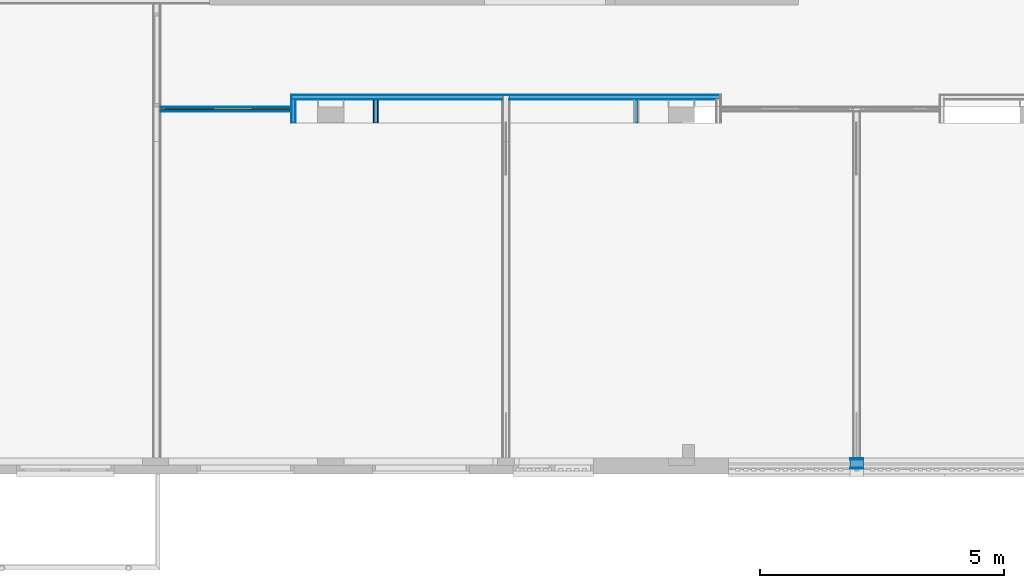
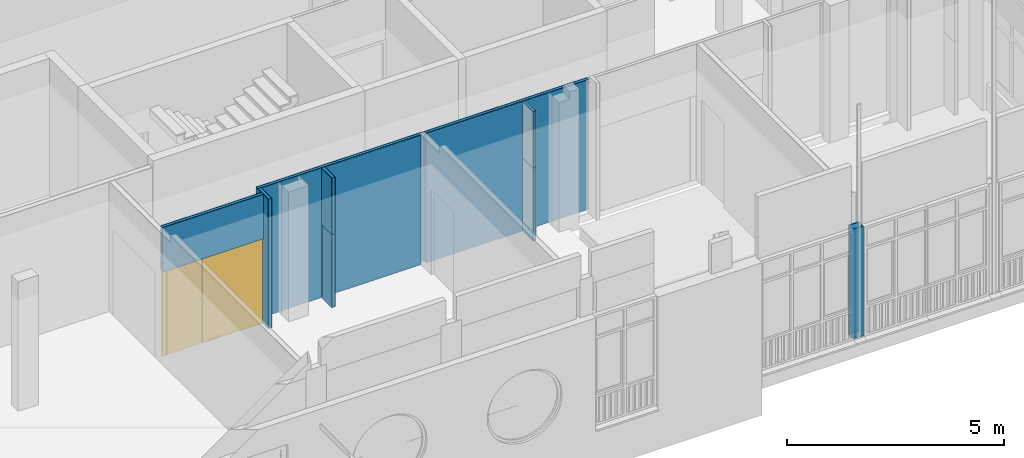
# One storey, part 100 of 135: 21 building element parts, 1 door, 1 opening, 7 elements without a shape of their own.
"""IFC2X3 building model written with IfcOpenShell, lengths in millimetres."""

from ifc_helpers import new_model, entity, si_unit, converted_unit, derived_unit, money_unit, direction, frame, origin_with_axes, place, context, subcontext, project, spatial, open_shell, faceted_brep, surface_model, material, type_object, element, fill, aggregate, save


model = new_model("IFC2X3")

# Units and contexts
model_context = context("Model", 3, precision=0.01, world=origin_with_axes(), true_north=direction((0.0, 1.0)))
body_context = subcontext(model_context, "Body", "Model", "MODEL_VIEW")
ifc_project = project(units=[si_unit("LENGTHUNIT", "METRE", prefix="MILLI"), si_unit("AREAUNIT", "SQUARE_METRE"), si_unit("VOLUMEUNIT", "CUBIC_METRE"), converted_unit("PLANEANGLEUNIT", "DEGREE", entity("IfcPlaneAngleMeasure", 0.0174532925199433), si_unit("PLANEANGLEUNIT", "RADIAN"), dimensions=[0, 0, 0, 0, 0, 0, 0]), money_unit("EUR"), converted_unit("TIMEUNIT", "Year", entity("IfcTimeMeasure", 31557600.0), si_unit("TIMEUNIT", "SECOND"), dimensions=[0, 0, 1, 0, 0, 0, 0]), si_unit("MASSUNIT", "GRAM", prefix="KILO"), si_unit("THERMODYNAMICTEMPERATUREUNIT", "DEGREE_CELSIUS"), si_unit("LUMINOUSINTENSITYUNIT", "LUMEN"), si_unit("ENERGYUNIT", "JOULE", prefix="MEGA"), derived_unit("THERMALCONDUCTANCEUNIT", [(si_unit("POWERUNIT", "WATT"), 1), (si_unit("LENGTHUNIT", "METRE"), -1), (si_unit("THERMODYNAMICTEMPERATUREUNIT", "KELVIN"), -1)]), derived_unit("SPECIFICHEATCAPACITYUNIT", [(si_unit("ENERGYUNIT", "JOULE"), 1), (si_unit("MASSUNIT", "GRAM", prefix="KILO"), -1), (si_unit("THERMODYNAMICTEMPERATUREUNIT", "KELVIN"), -1)]), derived_unit("MASSDENSITYUNIT", [(si_unit("MASSUNIT", "GRAM", prefix="KILO"), 1), (si_unit("VOLUMEUNIT", "CUBIC_METRE"), -1)])], contexts=[model_context])

# Site, building, storey
site_placement = place(None, origin_with_axes())
site = spatial("IfcSite", under=ifc_project, at=site_placement, Name="Site", CompositionType="ELEMENT")
building_placement = place(site_placement, origin_with_axes())
building = spatial("IfcBuilding", under=site, at=building_placement, Name="Naam gebouw", CompositionType="ELEMENT")
storey_placement = place(building_placement, origin_with_axes())
storey = spatial("IfcBuildingStorey", under=building, at=storey_placement, Name="Begane grond N", CompositionType="ELEMENT", Elevation=0.0)

# Door
door_style = type_object("IfcDoorStyle", Name="D1 zl2 27", ConstructionType="NOTDEFINED", OperationType="USERDEFINED", ParameterTakesPrecedence=False, Sizeable=False)
wall_2_placement = place(storey_placement, frame((10905.50051848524, 10605.91242510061, 0.0), z_axis=(0.0, 0.0, 1.0), x_axis=(1.0, 0.0, 0.0)))
opening_placement = place(wall_2_placement, frame((1339.74974075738, 0.0, 0.0), z_axis=(0.0, 0.0, 1.0), x_axis=(1.0, 0.0, 0.0)))
door_placement = place(opening_placement, frame((1339.749740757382, 0.0, 0.0), z_axis=(0.0, 0.0, 1.0), x_axis=(-1.0, 0.0, 0.0)))
door = element("IfcDoor", 1, at=door_placement, inside=storey, type_object=door_style, Name="_Merk-x", ObjectType="DOOR", OverallHeight=2400.0, OverallWidth=2679.5, context=body_context, shape_type="SurfaceModel", body=[
    faceted_brep([(0.0, 10.00000000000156, 0.0), (30.00000000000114, 10.00000000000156, 0.0), (30.00000000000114, -9.99999999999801, 0.0), (0.0, -9.99999999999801, 0.0), (0.0, 10.00000000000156, 2370.0), (30.00000000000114, 10.00000000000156, 2370.0), (30.00000000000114, 10.00000000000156, 30.0), (30.00000000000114, -9.99999999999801, 30.0), (30.00000000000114, -9.99999999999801, 2370.0), (0.0, -9.99999999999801, 2370.0)], [[[0, 1, 2, 3]], [[0, 4, 5, 6, 1]], [[1, 6, 7, 2]], [[3, 2, 7, 8, 9]], [[4, 0, 3, 9]], [[5, 4, 9, 8]], [[6, 5, 8, 7]]]),
    faceted_brep([(1619.499481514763, -8.999999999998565, 0.0), (1619.499481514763, -8.999999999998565, 2370.0), (1619.499481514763, -9.99999999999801, 2370.0), (1619.499481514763, -9.99999999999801, 0.0), (1602.499481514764, -8.999999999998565, 2370.0), (1602.499481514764, -8.999999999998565, 0.0), (1602.499481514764, 10.00000000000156, 2370.0), (1589.499481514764, 10.00000000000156, 2370.0), (1589.499481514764, -9.99999999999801, 2370.0), (1589.499481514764, -9.99999999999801, 0.0), (1589.499481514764, -9.99999999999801, 30.00000000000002), (1589.499481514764, 10.00000000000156, 0.0), (1602.499481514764, 10.00000000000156, 0.0), (1589.499481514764, 10.00000000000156, 30.00000000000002)], [[[0, 1, 2, 3]], [[4, 1, 0, 5]], [[4, 6, 7, 8, 2, 1]], [[9, 3, 2, 8, 10]], [[5, 0, 3, 9, 11, 12]], [[6, 4, 5, 12]], [[6, 12, 11, 13, 7]], [[13, 10, 8, 7]], [[11, 9, 10, 13]]]),
    faceted_brep([(30.00000000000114, 10.00000000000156, 30.0), (30.00000000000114, 10.00000000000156, 0.0), (30.00000000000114, -9.99999999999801, 0.0), (30.00000000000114, -9.99999999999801, 30.0), (1589.499481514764, 10.00000000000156, 30.0), (1589.499481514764, 10.00000000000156, 0.0), (1589.499481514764, -9.99999999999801, 0.0), (1589.499481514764, -9.99999999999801, 30.0)], [[[0, 1, 2, 3]], [[0, 4, 5, 1]], [[1, 5, 6, 2]], [[3, 2, 6, 7]], [[4, 0, 3, 7]], [[5, 4, 7, 6]]]),
    faceted_brep([(2679.499481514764, 10.00000000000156, 0.0), (2679.499481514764, 10.00000000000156, 2370.0), (2679.499481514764, -9.99999999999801, 2370.0), (2679.499481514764, -9.99999999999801, 0.0), (2649.499481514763, 10.00000000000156, 0.0), (2649.499481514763, 10.00000000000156, 30.0), (2649.499481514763, 10.00000000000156, 2370.0), (2649.499481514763, -9.99999999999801, 2370.0), (2649.499481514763, -9.99999999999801, 30.0), (2649.499481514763, -9.99999999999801, 0.0)], [[[0, 1, 2, 3]], [[0, 4, 5, 6, 1]], [[1, 6, 7, 2]], [[3, 2, 7, 8, 9]], [[4, 0, 3, 9]], [[5, 4, 9, 8]], [[6, 5, 8, 7]]]),
    faceted_brep([(2536.499481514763, -8.999999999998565, 2370.0), (2519.499481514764, -8.999999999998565, 2370.0), (2519.499481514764, -9.99999999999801, 2370.0), (2549.499481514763, -9.99999999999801, 2370.0), (2549.499481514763, 10.00000000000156, 2370.0), (2536.499481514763, 10.00000000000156, 2370.0), (2536.499481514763, -8.999999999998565, 0.0), (2519.499481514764, -8.999999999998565, 0.0), (2519.499481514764, -9.99999999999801, 0.0), (2549.499481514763, -9.99999999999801, 0.0), (2549.499481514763, -9.99999999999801, 30.00000000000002), (2549.499481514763, 10.00000000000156, 30.00000000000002), (2536.499481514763, 10.00000000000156, 0.0), (2549.499481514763, 10.00000000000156, 0.0)], [[[0, 1, 2, 3, 4, 5]], [[1, 0, 6, 7]], [[1, 7, 8, 2]], [[8, 9, 10, 3, 2]], [[4, 3, 10, 11]], [[12, 5, 4, 11, 13]], [[0, 5, 12, 6]], [[6, 12, 13, 9, 8, 7]], [[11, 10, 9, 13]]]),
    faceted_brep([(2549.499481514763, 10.00000000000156, 30.0), (2549.499481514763, 10.00000000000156, 0.0), (2549.499481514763, -9.99999999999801, 0.0), (2549.499481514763, -9.99999999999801, 30.0), (2649.499481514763, 10.00000000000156, 30.0), (2649.499481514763, 10.00000000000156, 0.0), (2649.499481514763, -9.99999999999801, 0.0), (2649.499481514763, -9.99999999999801, 30.0)], [[[0, 1, 2, 3]], [[0, 4, 5, 1]], [[1, 5, 6, 2]], [[3, 2, 6, 7]], [[4, 0, 3, 7]], [[5, 4, 7, 6]]]),
    faceted_brep([(1602.499481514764, 10.00000000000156, 2387.0), (1602.499481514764, 10.00000000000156, 2370.0), (1589.499481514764, 10.00000000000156, 2370.0), (30.00000000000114, 10.00000000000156, 2370.0), (0.0, 10.00000000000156, 2370.0), (0.0, 10.00000000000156, 2400.0), (2679.499481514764, 10.00000000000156, 2400.0), (2679.499481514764, 10.00000000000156, 2370.0), (2649.499481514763, 10.00000000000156, 2370.0), (2549.499481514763, 10.00000000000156, 2370.0), (2536.499481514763, 10.00000000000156, 2370.0), (2536.499481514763, 10.00000000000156, 2387.0), (1602.499481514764, -8.999999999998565, 2387.0), (1602.499481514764, -8.999999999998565, 2370.0), (2519.499481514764, -8.999999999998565, 2370.0), (2519.499481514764, -9.99999999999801, 2370.0), (1619.499481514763, -9.99999999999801, 2370.0), (1589.499481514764, -9.99999999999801, 2370.0), (30.00000000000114, -9.99999999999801, 2370.0), (0.0, -9.99999999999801, 2370.0), (0.0, -9.99999999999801, 2400.0), (2679.499481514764, -9.99999999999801, 2400.0), (2679.499481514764, -9.99999999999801, 2370.0), (2649.499481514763, -9.99999999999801, 2370.0), (2536.499481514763, -8.999999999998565, 2370.0), (2549.499481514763, -9.99999999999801, 2370.0), (2536.499481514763, -8.999999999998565, 2387.0)], [[[0, 1, 2, 3, 4, 5, 6, 7, 8, 9, 10, 11]], [[1, 0, 12, 13]], [[13, 14, 15, 16, 17, 2, 1]], [[2, 17, 18, 3]], [[3, 18, 19, 4]], [[4, 19, 20, 5]], [[5, 20, 21, 6]], [[6, 21, 22, 7]], [[7, 22, 23, 8]], [[24, 10, 9, 8, 23, 25, 15, 14]], [[11, 10, 24, 26]], [[0, 11, 26, 12]], [[24, 14, 13, 12, 26]], [[23, 22, 21, 20, 19, 18, 17, 16, 15, 25]]]),
    faceted_brep([(2536.499481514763, 1.000000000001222, 0.0), (2536.499481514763, -8.999999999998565, 0.0), (1602.499481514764, -8.999999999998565, 0.0), (1602.499481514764, 1.000000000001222, 0.0), (2536.499481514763, 1.000000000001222, 2387.0), (2536.499481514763, -8.999999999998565, 2387.0), (1602.499481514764, -8.999999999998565, 2387.0), (1602.499481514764, 1.000000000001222, 2387.0)], [[[0, 1, 2, 3]], [[4, 5, 1, 0]], [[1, 5, 6, 2]], [[3, 2, 6, 7]], [[0, 3, 7, 4]], [[7, 6, 5, 4]]]),
    surface_model("IfcShellBasedSurfaceModel", [(30.00000000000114, 9.000000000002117, 30.0), (30.00000000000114, 9.000000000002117, 2370.0), (1589.499481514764, 9.000000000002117, 2370.0), (1589.499481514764, 9.000000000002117, 30.0)], [open_shell([[[0, 1, 2, 3]]])]),
    surface_model("IfcShellBasedSurfaceModel", [(30.00000000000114, 1.000000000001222, 30.0), (1589.499481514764, 1.000000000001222, 30.0), (1589.499481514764, 1.000000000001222, 2370.0), (30.00000000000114, 1.000000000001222, 2370.0)], [open_shell([[[0, 1, 2, 3]]])]),
    surface_model("IfcShellBasedSurfaceModel", [(2549.499481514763, 9.000000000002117, 30.0), (2549.499481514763, 9.000000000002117, 2370.0), (2649.499481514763, 9.000000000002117, 2370.0), (2649.499481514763, 9.000000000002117, 30.0)], [open_shell([[[0, 1, 2, 3]]])]),
    surface_model("IfcShellBasedSurfaceModel", [(2549.499481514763, 1.000000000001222, 30.0), (2649.499481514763, 1.000000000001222, 30.0), (2649.499481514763, 1.000000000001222, 2370.0), (2549.499481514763, 1.000000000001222, 2370.0)], [open_shell([[[0, 1, 2, 3]]])]),
])

# Wall, building element parts
wall_type_1 = type_object("IfcWallType", Name="Metalstud iso 100 100", PredefinedType="NOTDEFINED")
wall_1_placement = place(storey_placement, frame((17925.0, 10805.91242510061, 0.0), z_axis=(0.0, 0.0, 1.0), x_axis=(-1.0, 0.0, 0.0)))
wall_1 = element("IfcWall", 2, at=wall_1_placement, inside=storey, type_object=wall_type_1, Name="_Wand-x")
ifc_material_1 = material(Name="Gipsplaat")
building_element_part_1_placement = place(wall_1_placement, origin_with_axes())
building_element_part_1 = element("IfcBuildingElementPart", 3, at=building_element_part_1_placement, material=ifc_material_1, Name="Gipsplaat", context=body_context, shape_type="Brep", body=[
    faceted_brep([(4252.500000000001, -12.49999999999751, 3650.0), (0.0, -12.49999999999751, 3650.0), (0.0, -12.49999999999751, 0.0), (4252.500000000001, -12.50000000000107, 0.0), (0.0, 0.0, 3650.0), (4252.500000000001, 0.0, 3650.0), (0.0, 0.0, 0.0), (4252.500000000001, 0.0, 0.0)], [[[0, 1, 2, 3]], [[4, 1, 0, 5]], [[1, 4, 6, 2]], [[3, 2, 6, 7]], [[5, 0, 3, 7]], [[4, 5, 7, 6]]]),
])
ifc_material_2 = material(Name="Isolatie - Steenwol LSW")
building_element_part_2_placement = place(wall_1_placement, origin_with_axes())
building_element_part_2 = element("IfcBuildingElementPart", 4, at=building_element_part_2_placement, material=ifc_material_2, Name="Isolatie - Steenwol LSW", context=body_context, shape_type="Brep", body=[
    faceted_brep([(4327.500000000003, -87.50000000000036, 3650.0), (0.0, -87.50000000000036, 3650.0), (0.0, -87.50000000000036, 0.0), (4327.500000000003, -87.50000000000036, 0.0), (0.0, -12.49999999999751, 3650.0), (4327.500000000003, -12.49999999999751, 3650.0), (0.0, -12.49999999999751, 0.0), (4327.500000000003, -12.50000000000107, 0.0)], [[[0, 1, 2, 3]], [[4, 1, 0, 5]], [[1, 4, 6, 2]], [[3, 2, 6, 7]], [[5, 0, 3, 7]], [[4, 5, 7, 6]]]),
])
building_element_part_3_placement = place(wall_1_placement, origin_with_axes())
building_element_part_3 = element("IfcBuildingElementPart", 5, at=building_element_part_3_placement, material=ifc_material_1, Name="Gipsplaat", context=body_context, shape_type="Brep", body=[
    faceted_brep([(4340.000000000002, -99.99999999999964, 3650.0), (-250.0, -99.99999999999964, 3650.0), (-250.0, -99.99999999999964, 0.0), (4340.000000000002, -99.99999999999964, 0.0), (-250.0, -87.50000000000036, 3650.0), (4340.000000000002, -87.50000000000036, 3650.0), (-250.0, -87.50000000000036, 0.0), (4340.000000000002, -87.50000000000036, 0.0)], [[[0, 1, 2, 3]], [[4, 1, 0, 5]], [[1, 4, 6, 2]], [[3, 2, 6, 7]], [[5, 0, 3, 7]], [[4, 5, 7, 6]]]),
])
aggregate(wall_1, [building_element_part_1, building_element_part_2, building_element_part_3])

# Wall, opening
wall_2 = element("IfcWall", 6, at=wall_2_placement, inside=storey, type_object=wall_type_1, Name="_Wand-x")
opening = element("IfcOpeningElement", 7, at=opening_placement, cuts=wall_2, Name="_Merk-x", context=body_context, shape_type="Brep", body=[
    faceted_brep([(-1339.749740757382, 9.999999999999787, 0.0), (-1339.749740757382, 9.999999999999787, 2400.0), (-1339.749740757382, 51.00000000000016, 2400.0), (-1339.749740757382, 51.00000000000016, 0.0), (-1339.749740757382, -51.00000000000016, 0.0), (-1339.749740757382, -51.00000000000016, 2400.0), (1339.749740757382, 9.999999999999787, 2400.0), (1339.749740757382, 51.00000000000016, 2400.0), (1339.749740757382, -51.00000000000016, 2400.0), (1339.749740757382, 51.00000000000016, 0.0), (1339.749740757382, 9.99999999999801, 0.0), (1339.749740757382, -51.00000000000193, 0.0)], [[[0, 1, 2, 3]], [[1, 0, 4, 5]], [[6, 7, 2, 1, 5, 8]], [[7, 9, 3, 2]], [[0, 3, 9, 10, 11, 4]], [[5, 4, 11, 8]], [[6, 10, 9, 7]], [[10, 6, 8, 11]]]),
])

fill(opening, door)

# Building element part
building_element_part_4_placement = place(wall_2_placement, origin_with_axes())
building_element_part_4 = element("IfcBuildingElementPart", 8, at=building_element_part_4_placement, material=ifc_material_1, Name="Gipsplaat", context=body_context, shape_type="Brep", body=[
    faceted_brep([(2679.499481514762, 37.49999999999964, 2400.0), (2679.499481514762, 50.00000000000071, 2400.0), (2679.499481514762, 50.00000000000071, 3650.0), (2679.499481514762, 37.49999999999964, 3650.0), (0.0, 50.00000000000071, 2400.0), (0.0, 37.49999999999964, 2400.0), (0.0, 50.00000000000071, 3650.0), (0.0, 37.49999999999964, 3650.0)], [[[0, 1, 2, 3]], [[4, 1, 0, 5]], [[1, 4, 6, 2]], [[2, 6, 7, 3]], [[5, 0, 3, 7]], [[4, 5, 7, 6]]]),
])

building_element_part_5_placement = place(wall_2_placement, origin_with_axes())
building_element_part_5 = element("IfcBuildingElementPart", 9, at=building_element_part_5_placement, material=ifc_material_2, Name="Isolatie - Steenwol LSW", context=body_context, shape_type="Brep", body=[
    faceted_brep([(2679.499481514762, -37.49999999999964, 2400.0), (2679.499481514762, 9.999999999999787, 2400.0), (2679.499481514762, 37.49999999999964, 2400.0), (2679.499481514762, 37.49999999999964, 3650.0), (2679.499481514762, -37.49999999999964, 3650.0), (0.0, -37.49999999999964, 2400.0), (0.0, 9.999999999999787, 2400.0), (0.0, 37.49999999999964, 2400.0), (0.0, 37.49999999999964, 3650.0), (0.0, -37.49999999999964, 3650.0)], [[[0, 1, 2, 3, 4]], [[1, 0, 5, 6, 7, 2]], [[7, 8, 3, 2]], [[8, 9, 4, 3]], [[5, 0, 4, 9]], [[6, 5, 9, 8, 7]]]),
])

building_element_part_6_placement = place(wall_2_placement, origin_with_axes())
building_element_part_6 = element("IfcBuildingElementPart", 10, at=building_element_part_6_placement, material=ifc_material_1, Name="Gipsplaat", context=body_context, shape_type="Brep", body=[
    faceted_brep([(2679.499481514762, -49.99999999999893, 2400.0), (2679.499481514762, -37.49999999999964, 2400.0), (2679.499481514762, -37.49999999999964, 3650.0), (2679.499481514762, -49.99999999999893, 3650.0), (0.0, -37.49999999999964, 2400.0), (0.0, -49.99999999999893, 2400.0), (0.0, -37.49999999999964, 3650.0), (0.0, -49.99999999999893, 3650.0)], [[[0, 1, 2, 3]], [[4, 1, 0, 5]], [[1, 4, 6, 2]], [[2, 6, 7, 3]], [[5, 0, 3, 7]], [[4, 5, 7, 6]]]),
])

aggregate(wall_2, [building_element_part_4, building_element_part_5, building_element_part_6])

# Wall, building element parts
wall_3_placement = place(storey_placement, frame((13685.0, 10330.91242510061, 0.0), z_axis=(0.0, 0.0, 1.0), x_axis=(0.0, 1.0, 0.0)))
wall_3 = element("IfcWall", 11, at=wall_3_placement, inside=storey, type_object=wall_type_1, Name="_Wand-x")
building_element_part_7_placement = place(wall_3_placement, origin_with_axes())
building_element_part_7 = element("IfcBuildingElementPart", 12, at=building_element_part_7_placement, material=ifc_material_2, Name="Isolatie - Steenwol LSW", context=body_context, shape_type="Brep", body=[
    faceted_brep([(487.4999999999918, 87.50000000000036, 3650.0), (487.4999999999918, 12.50000000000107, 3650.0), (487.4999999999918, 12.49999999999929, 0.0), (487.4999999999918, 87.50000000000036, 0.0), (0.0, 12.50000000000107, 3650.0), (0.0, 87.50000000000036, 3650.0), (0.0, 12.49999999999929, 0.0), (0.0, 87.50000000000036, 0.0)], [[[0, 1, 2, 3]], [[4, 1, 0, 5]], [[1, 4, 6, 2]], [[3, 2, 6, 7]], [[5, 0, 3, 7]], [[4, 5, 7, 6]]]),
])
building_element_part_8_placement = place(wall_3_placement, origin_with_axes())
building_element_part_8 = element("IfcBuildingElementPart", 13, at=building_element_part_8_placement, material=ifc_material_1, Name="Gipsplaat", context=body_context, shape_type="Brep", body=[
    faceted_brep([(474.9999999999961, 12.50000000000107, 3650.0), (474.9999999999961, 0.0, 3650.0), (474.9999999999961, 0.0, 0.0), (474.9999999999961, 12.49999999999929, 0.0), (0.0, 0.0, 3650.0), (0.0, 12.50000000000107, 3650.0), (0.0, 0.0, 0.0), (0.0, 12.49999999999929, 0.0)], [[[0, 1, 2, 3]], [[4, 1, 0, 5]], [[1, 4, 6, 2]], [[3, 2, 6, 7]], [[5, 0, 3, 7]], [[4, 5, 7, 6]]]),
])
building_element_part_9_placement = place(wall_3_placement, origin_with_axes())
building_element_part_9 = element("IfcBuildingElementPart", 14, at=building_element_part_9_placement, material=ifc_material_1, Name="Gipsplaat", context=body_context, shape_type="Brep", body=[
    faceted_brep([(562.4999999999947, 99.99999999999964, 3650.0), (562.4999999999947, 87.50000000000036, 3650.0), (562.4999999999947, 87.50000000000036, 0.0), (562.4999999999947, 99.99999999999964, 0.0), (0.0, 87.50000000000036, 3650.0), (0.0, 99.99999999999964, 3650.0), (0.0, 87.50000000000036, 0.0), (0.0, 99.99999999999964, 0.0)], [[[0, 1, 2, 3]], [[4, 1, 0, 5]], [[1, 4, 6, 2]], [[3, 2, 6, 7]], [[5, 0, 3, 7]], [[4, 5, 7, 6]]]),
])
aggregate(wall_3, [building_element_part_7, building_element_part_8, building_element_part_9])

wall_type_2 = type_object("IfcWallType", Name="Gevel-hsb tpv bg optie 216", PredefinedType="NOTDEFINED")
wall_4_placement = place(storey_placement, frame((25062.4496505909, 3229.668707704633, 0.0), z_axis=(0.0, 0.0, 1.0), x_axis=(1.0, 0.0, 0.0)))
wall_4 = element("IfcWall", 15, at=wall_4_placement, inside=storey, type_object=wall_type_2, Name="_Wand-x")
building_element_part_10_placement = place(wall_4_placement, origin_with_axes())
building_element_part_10 = element("IfcBuildingElementPart", 16, at=building_element_part_10_placement, material=ifc_material_1, Name="Gipsplaat", context=body_context, shape_type="Brep", body=[
    faceted_brep([(275.0000000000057, 216.0000000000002, 0.0), (275.0000000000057, 204.0000000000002, 0.0), (0.0, 204.0000000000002, 0.0), (0.0, 216.0000000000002, 0.0), (275.0000000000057, 216.0000000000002, 3090.000000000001), (275.0000000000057, 204.0000000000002, 3090.000000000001), (0.0, 204.0000000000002, 3090.000000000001), (0.0, 216.0000000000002, 3090.000000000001)], [[[0, 1, 2, 3]], [[0, 4, 5, 1]], [[1, 5, 6, 2]], [[3, 2, 6, 7]], [[4, 0, 3, 7]], [[5, 4, 7, 6]]]),
])
ifc_material_3 = material(Name="Hout - Multiplex")
building_element_part_11_placement = place(wall_4_placement, origin_with_axes())
building_element_part_11 = element("IfcBuildingElementPart", 17, at=building_element_part_11_placement, material=ifc_material_3, Name="Hout - Multiplex", context=body_context, shape_type="Brep", body=[
    faceted_brep([(275.0000000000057, 204.0000000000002, 0.0), (275.0000000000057, 185.9999999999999, 0.0), (0.0, 185.9999999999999, 0.0), (0.0, 204.0000000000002, 0.0), (275.0000000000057, 204.0000000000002, 3090.000000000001), (275.0000000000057, 186.0000000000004, 3090.000000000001), (0.0, 186.0000000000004, 3090.000000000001), (0.0, 204.0000000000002, 3090.000000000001)], [[[0, 1, 2, 3]], [[0, 4, 5, 1]], [[1, 5, 6, 2]], [[3, 2, 6, 7]], [[4, 0, 3, 7]], [[5, 4, 7, 6]]]),
])
ifc_material_4 = material(Name="Isolatie - Kunststof hard")
building_element_part_12_placement = place(wall_4_placement, origin_with_axes())
building_element_part_12 = element("IfcBuildingElementPart", 18, at=building_element_part_12_placement, material=ifc_material_4, Name="Isolatie - Kunststof hard", context=body_context, shape_type="Brep", body=[
    faceted_brep([(275.0000000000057, 185.9999999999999, 0.0), (275.0000000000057, 20.99999999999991, 0.0), (0.0, 20.99999999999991, 0.0), (0.0, 185.9999999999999, 0.0), (275.0000000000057, 186.0000000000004, 3090.000000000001), (275.0000000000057, 21.00000000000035, 3090.000000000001), (0.0, 21.00000000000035, 3090.000000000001), (0.0, 186.0000000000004, 3090.000000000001)], [[[0, 1, 2, 3]], [[0, 4, 5, 1]], [[1, 5, 6, 2]], [[3, 2, 6, 7]], [[4, 0, 3, 7]], [[5, 4, 7, 6]]]),
])
building_element_part_13_placement = place(wall_4_placement, origin_with_axes())
building_element_part_13 = element("IfcBuildingElementPart", 19, at=building_element_part_13_placement, material=ifc_material_3, Name="Hout - Multiplex", context=body_context, shape_type="Brep", body=[
    faceted_brep([(275.0000000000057, 20.99999999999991, 0.0), (275.0000000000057, 3.000000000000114, 0.0), (0.0, 3.000000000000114, 0.0), (0.0, 20.99999999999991, 0.0), (275.0000000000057, 21.00000000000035, 3090.000000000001), (275.0000000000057, 3.000000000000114, 3090.000000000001), (0.0, 3.000000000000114, 3090.000000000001), (0.0, 21.00000000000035, 3090.000000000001)], [[[0, 1, 2, 3]], [[0, 4, 5, 1]], [[1, 5, 6, 2]], [[3, 2, 6, 7]], [[4, 0, 3, 7]], [[5, 4, 7, 6]]]),
])
ifc_material_5 = material(Name="Metaal - Aluminium")
building_element_part_14_placement = place(wall_4_placement, origin_with_axes())
building_element_part_14 = element("IfcBuildingElementPart", 20, at=building_element_part_14_placement, material=ifc_material_5, Name="Metaal - Aluminium", context=body_context, shape_type="Brep", body=[
    faceted_brep([(275.0000000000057, 3.000000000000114, 0.0), (275.0000000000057, 0.0, 0.0), (0.0, 0.0, 0.0), (0.0, 3.000000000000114, 0.0), (275.0000000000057, 3.000000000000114, 3090.000000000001), (275.0000000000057, 0.0, 3090.000000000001), (0.0, 0.0, 3090.000000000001), (0.0, 3.000000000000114, 3090.000000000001)], [[[0, 1, 2, 3]], [[0, 4, 5, 1]], [[1, 5, 6, 2]], [[3, 2, 6, 7]], [[4, 0, 3, 7]], [[5, 4, 7, 6]]]),
])
aggregate(wall_4, [building_element_part_10, building_element_part_11, building_element_part_12, building_element_part_13, building_element_part_14])

wall_5_placement = place(storey_placement, frame((15375.0, 10330.91242510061, 0.0), z_axis=(0.0, 0.0, 1.0), x_axis=(0.0, 1.0, 0.0)))
wall_5 = element("IfcWall", 21, at=wall_5_placement, inside=storey, type_object=wall_type_1, Name="_Wand-x")
building_element_part_15_placement = place(wall_5_placement, origin_with_axes())
building_element_part_15 = element("IfcBuildingElementPart", 22, at=building_element_part_15_placement, material=ifc_material_2, Name="Isolatie - Steenwol LSW", context=body_context, shape_type="Brep", body=[
    faceted_brep([(430.0000000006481, 87.50000000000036, 2049.999999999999), (430.0000000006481, 12.50000000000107, 2049.999999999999), (430.0000000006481, 12.50000000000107, 49.99999999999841), (430.0000000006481, 87.50000000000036, 49.99999999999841), (2.860902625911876e-06, 12.50000000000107, 2049.999999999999), (2.860902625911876e-06, 87.50000000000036, 2049.999999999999), (449.9999999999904, 12.49999999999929, 2069.999999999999), (449.9999999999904, 12.50000000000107, 2049.999999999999), (450.0000000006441, 12.50000000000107, 49.99999999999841), (0.0, 12.49999999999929, 0.0), (474.9999999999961, 12.49999999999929, 0.0), (474.9999999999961, 12.50000000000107, 3650.0), (0.0, 12.50000000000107, 3650.0), (2.860902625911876e-06, 12.49999999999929, 2069.999999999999), (450.0000000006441, 87.50000000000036, 49.99999999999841), (449.9999999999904, 87.50000000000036, 2069.999999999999), (2.860902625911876e-06, 87.50000000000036, 2069.999999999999), (0.0, 87.50000000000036, 3650.0), (474.9999999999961, 87.50000000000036, 3650.0), (474.9999999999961, 87.50000000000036, 0.0), (0.0, 87.50000000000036, 0.0), (449.9999999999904, 87.50000000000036, 2049.999999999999)], [[[0, 1, 2, 3]], [[4, 1, 0, 5]], [[6, 7, 8, 2, 1, 4, 9, 10, 11, 12, 13]], [[3, 2, 8, 14]], [[15, 16, 17, 18, 19, 20, 5, 0, 3, 14, 21]], [[4, 5, 20, 9]], [[7, 6, 15, 21, 14, 8]], [[20, 19, 10, 9]], [[18, 11, 10, 19]], [[12, 11, 18, 17]], [[16, 13, 12, 17]], [[6, 13, 16, 15]]]),
])
building_element_part_16_placement = place(wall_5_placement, origin_with_axes())
building_element_part_16 = element("IfcBuildingElementPart", 23, at=building_element_part_16_placement, material=ifc_material_1, Name="Gipsplaat", context=body_context, shape_type="Brep", body=[
    faceted_brep([(430.0000000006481, 99.99999999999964, 2049.999999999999), (430.0000000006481, 87.50000000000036, 2049.999999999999), (430.0000000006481, 87.50000000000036, 49.99999999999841), (430.0000000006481, 99.99999999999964, 49.99999999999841), (2.860902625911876e-06, 87.50000000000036, 2049.999999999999), (2.860902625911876e-06, 99.99999999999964, 2049.999999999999), (449.9999999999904, 87.50000000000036, 2069.999999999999), (449.9999999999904, 87.50000000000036, 2049.999999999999), (450.0000000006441, 87.50000000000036, 49.99999999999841), (0.0, 87.50000000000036, 0.0), (474.9999999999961, 87.50000000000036, 0.0), (474.9999999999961, 87.50000000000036, 3650.0), (0.0, 87.50000000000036, 3650.0), (2.860902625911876e-06, 87.50000000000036, 2069.999999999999), (450.0000000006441, 99.99999999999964, 49.99999999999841), (449.9999999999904, 99.99999999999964, 2069.999999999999), (2.860902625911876e-06, 99.99999999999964, 2069.999999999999), (0.0, 99.99999999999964, 3650.0), (474.9999999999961, 99.99999999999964, 3650.0), (474.9999999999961, 99.99999999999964, 0.0), (0.0, 99.99999999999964, 0.0), (449.9999999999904, 99.99999999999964, 2049.999999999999)], [[[0, 1, 2, 3]], [[4, 1, 0, 5]], [[6, 7, 8, 2, 1, 4, 9, 10, 11, 12, 13]], [[3, 2, 8, 14]], [[15, 16, 17, 18, 19, 20, 5, 0, 3, 14, 21]], [[4, 5, 20, 9]], [[7, 6, 15, 21, 14, 8]], [[20, 19, 10, 9]], [[18, 11, 10, 19]], [[12, 11, 18, 17]], [[16, 13, 12, 17]], [[6, 13, 16, 15]]]),
])
building_element_part_17_placement = place(wall_5_placement, origin_with_axes())
building_element_part_17 = element("IfcBuildingElementPart", 24, at=building_element_part_17_placement, material=ifc_material_1, Name="Gipsplaat", context=body_context, shape_type="Brep", body=[
    faceted_brep([(430.0000000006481, 12.49999999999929, 2049.999999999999), (430.0000000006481, 0.0, 2049.999999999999), (430.0000000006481, 0.0, 49.99999999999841), (430.0000000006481, 12.49999999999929, 49.99999999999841), (2.860902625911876e-06, 0.0, 2049.999999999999), (2.860902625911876e-06, 12.50000000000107, 2049.999999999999), (449.9999999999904, 0.0, 2069.999999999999), (449.9999999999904, 0.0, 2049.999999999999), (450.0000000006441, 0.0, 49.99999999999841), (0.0, 0.0, 0.0), (474.9999999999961, 0.0, 0.0), (474.9999999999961, 0.0, 3650.0), (0.0, 0.0, 3650.0), (2.860902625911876e-06, 0.0, 2069.999999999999), (450.0000000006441, 12.49999999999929, 49.99999999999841), (449.9999999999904, 12.50000000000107, 2069.999999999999), (2.860902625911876e-06, 12.49999999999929, 2069.999999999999), (0.0, 12.50000000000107, 3650.0), (474.9999999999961, 12.50000000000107, 3650.0), (474.9999999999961, 12.49999999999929, 0.0), (0.0, 12.49999999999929, 0.0), (449.9999999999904, 12.49999999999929, 2049.999999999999)], [[[0, 1, 2, 3]], [[4, 1, 0, 5]], [[6, 7, 8, 2, 1, 4, 9, 10, 11, 12, 13]], [[3, 2, 8, 14]], [[15, 16, 17, 18, 19, 20, 5, 0, 3, 14, 21]], [[4, 5, 20, 9]], [[7, 6, 15, 21, 14, 8]], [[20, 19, 10, 9]], [[18, 11, 10, 19]], [[12, 11, 18, 17]], [[16, 13, 12, 17]], [[6, 13, 16, 15]]]),
])
aggregate(wall_5, [building_element_part_15, building_element_part_16, building_element_part_17])

wall_6_placement = place(storey_placement, frame((17925.0, 10805.91242510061, 0.0), z_axis=(0.0, 0.0, 1.0), x_axis=(1.0, 0.0, 0.0)))
wall_6 = element("IfcWall", 25, at=wall_6_placement, inside=storey, type_object=wall_type_1, Name="_Wand-x")
building_element_part_18_placement = place(wall_6_placement, origin_with_axes())
building_element_part_18 = element("IfcBuildingElementPart", 26, at=building_element_part_18_placement, material=ifc_material_2, Name="Isolatie - Steenwol LSW", context=body_context, shape_type="Brep", body=[
    faceted_brep([(137.4999999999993, 87.50000000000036, 3650.0), (4477.499999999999, 87.50000000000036, 3650.0), (4477.499999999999, 87.50000000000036, 0.0), (137.4999999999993, 87.50000000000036, 0.0), (4477.499999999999, 12.50000000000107, 3650.0), (137.4999999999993, 12.50000000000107, 3650.0), (4477.499999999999, 12.50000000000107, 0.0), (137.4999999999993, 12.49999999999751, 0.0)], [[[0, 1, 2, 3]], [[4, 1, 0, 5]], [[1, 4, 6, 2]], [[3, 2, 6, 7]], [[5, 0, 3, 7]], [[4, 5, 7, 6]]]),
])
building_element_part_19_placement = place(wall_6_placement, origin_with_axes())
building_element_part_19 = element("IfcBuildingElementPart", 27, at=building_element_part_19_placement, material=ifc_material_1, Name="Gipsplaat", context=body_context, shape_type="Brep", body=[
    faceted_brep([(137.4999999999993, 12.50000000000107, 3650.0), (4402.5, 12.50000000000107, 3650.0), (4402.5, 12.50000000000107, 0.0), (137.4999999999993, 12.49999999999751, 0.0), (4402.5, 0.0, 3650.0), (137.4999999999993, 0.0, 3650.0), (4402.5, 0.0, 0.0), (137.4999999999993, 0.0, 0.0)], [[[0, 1, 2, 3]], [[4, 1, 0, 5]], [[1, 4, 6, 2]], [[3, 2, 6, 7]], [[5, 0, 3, 7]], [[4, 5, 7, 6]]]),
])
building_element_part_20_placement = place(wall_6_placement, origin_with_axes())
building_element_part_20 = element("IfcBuildingElementPart", 28, at=building_element_part_20_placement, material=ifc_material_1, Name="Gipsplaat", context=body_context, shape_type="Brep", body=[
    faceted_brep([(250.0, 99.99999999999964, 3650.0), (4490.000000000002, 99.99999999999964, 3650.0), (4490.000000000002, 99.99999999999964, 0.0), (250.0, 99.99999999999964, 0.0), (4490.000000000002, 87.50000000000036, 3650.0), (250.0, 87.50000000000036, 3650.0), (4490.000000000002, 87.50000000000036, 0.0), (250.0, 87.50000000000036, 0.0)], [[[0, 1, 2, 3]], [[4, 1, 0, 5]], [[1, 4, 6, 2]], [[6, 7, 3, 2]], [[5, 0, 3, 7]], [[4, 5, 7, 6]]]),
])
aggregate(wall_6, [building_element_part_18, building_element_part_19, building_element_part_20])

# Wall, building element part
wall_7_placement = place(storey_placement, frame((20625.0, 10330.91242510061, 0.0), z_axis=(0.0, 0.0, 1.0), x_axis=(0.0, 1.0, 0.0)))
wall_7 = element("IfcWall", 29, at=wall_7_placement, inside=storey, type_object=wall_type_1, Name="_Wand-x")
building_element_part_21_placement = place(wall_7_placement, origin_with_axes())
building_element_part_21 = element("IfcBuildingElementPart", 30, at=building_element_part_21_placement, material=ifc_material_2, Name="Isolatie - Steenwol LSW", context=body_context, shape_type="Brep", body=[
    faceted_brep([(430.0000000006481, -12.49999999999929, 2049.999999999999), (430.0000000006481, -87.49999999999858, 2049.999999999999), (430.0000000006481, -87.49999999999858, 49.99999999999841), (430.0000000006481, -12.49999999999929, 49.99999999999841), (2.860902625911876e-06, -87.49999999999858, 2049.999999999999), (2.860902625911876e-06, -12.49999999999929, 2049.999999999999), (449.9999999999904, -87.49999999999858, 2069.999999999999), (449.9999999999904, -87.49999999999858, 2049.999999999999), (450.0000000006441, -87.49999999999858, 49.99999999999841), (0.0, -87.49999999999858, 0.0), (474.9999999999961, -87.49999999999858, 0.0), (474.9999999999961, -87.49999999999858, 3650.0), (0.0, -87.49999999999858, 3650.0), (2.860902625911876e-06, -87.49999999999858, 2069.999999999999), (450.0000000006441, -12.49999999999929, 49.99999999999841), (449.9999999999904, -12.49999999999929, 2069.999999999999), (2.860902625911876e-06, -12.49999999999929, 2069.999999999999), (0.0, -12.49999999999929, 3650.0), (474.9999999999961, -12.49999999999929, 3650.0), (474.9999999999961, -12.49999999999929, 0.0), (0.0, -12.49999999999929, 0.0), (449.9999999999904, -12.49999999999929, 2049.999999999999)], [[[0, 1, 2, 3]], [[4, 1, 0, 5]], [[6, 7, 8, 2, 1, 4, 9, 10, 11, 12, 13]], [[3, 2, 8, 14]], [[15, 16, 17, 18, 19, 20, 5, 0, 3, 14, 21]], [[4, 5, 20, 9]], [[7, 6, 15, 21, 14, 8]], [[20, 19, 10, 9]], [[18, 11, 10, 19]], [[12, 11, 18, 17]], [[16, 13, 12, 17]], [[6, 13, 16, 15]]]),
])
aggregate(wall_7, [building_element_part_21])

save(model, "model.ifc")
